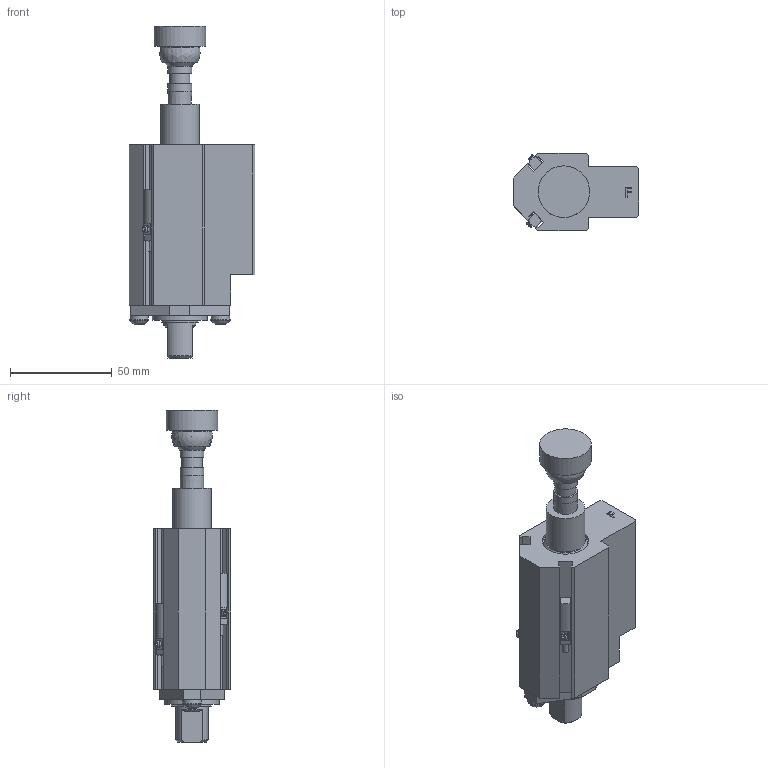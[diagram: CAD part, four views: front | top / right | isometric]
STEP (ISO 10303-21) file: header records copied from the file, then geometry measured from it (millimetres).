
FILE_DESCRIPTION(/* description */ ('MINI PASS THRU GROUND BLOCK'),/* implementation_level */ '2;1');
FILE_NAME(/* name */ 'C:\Vault Workspace\CAD\Welker\Cylinders\GBM\GBMDFL3.stp',/* time_stamp */ '2021-06-25T07:36:50-04:00',/* author */ ('KPL'),/* organization */ (''),/* preprocessor_version */ 'ST-DEVELOPER v18.1',/* originating_system */ 'Autodesk Inventor 2020',/* authorisation */ '');
FILE_SCHEMA (('AUTOMOTIVE_DESIGN { 1 0 10303 214 3 1 1 }'));
Products named in the file (11): GBML01; 91590A126; 96100A152; L3 Sensor 1; M5X0.8-10 BHCS; NL5; GBME01F; GBME02; GBME04; SN-148; AN-05U2145
Assembly tree (13 placements, depth 2):
  GBML01
    91590A126
    96100A152
    L3 Sensor 1  x2
    M5X0.8-10 BHCS  x2
    NL5  x2
    GBME01F
    GBME02
    GBME04
    SN-148
    AN-05U2145
Bounding box: 62 x 38.1 x 163.5 mm (x, y, z)
Volume: 137274.5 mm3; surface area: 49390.5 mm2
Topology: 13 solids, 13 shells, 439 faces, 1207 edges, 808 vertices
Faces by surface type: plane 310, cylinder 97, cone 22, torus 4, sphere 4, bspline 2
Full cylindrical faces by diameter (mm): 1.194 x2, 2.9 x2, 4.134 x2, 5 x2, 5.4 x2, 5.5 x2, 6.647 x1, 8 x2, 8.376 x2, 9 x2, 9.5 x2, 10 x1, 11.76 x2, 14.935 x1, 15.875 x3, 16.383 x1, 19.05 x1, 19.177 x1, 22.225 x2, 22.784 x1, 24.613 x1, 25.4 x1, 25.654 x1, 25.705 x1, 26.987 x1, 28.591 x1, 28.667 x1
Entity records: 10040 total; most frequent: CARTESIAN_POINT 1751, DIRECTION 1675, ORIENTED_EDGE 1586, EDGE_CURVE 793, AXIS2_PLACEMENT_3D 579, VERTEX_POINT 545, LINE 517, VECTOR 517
